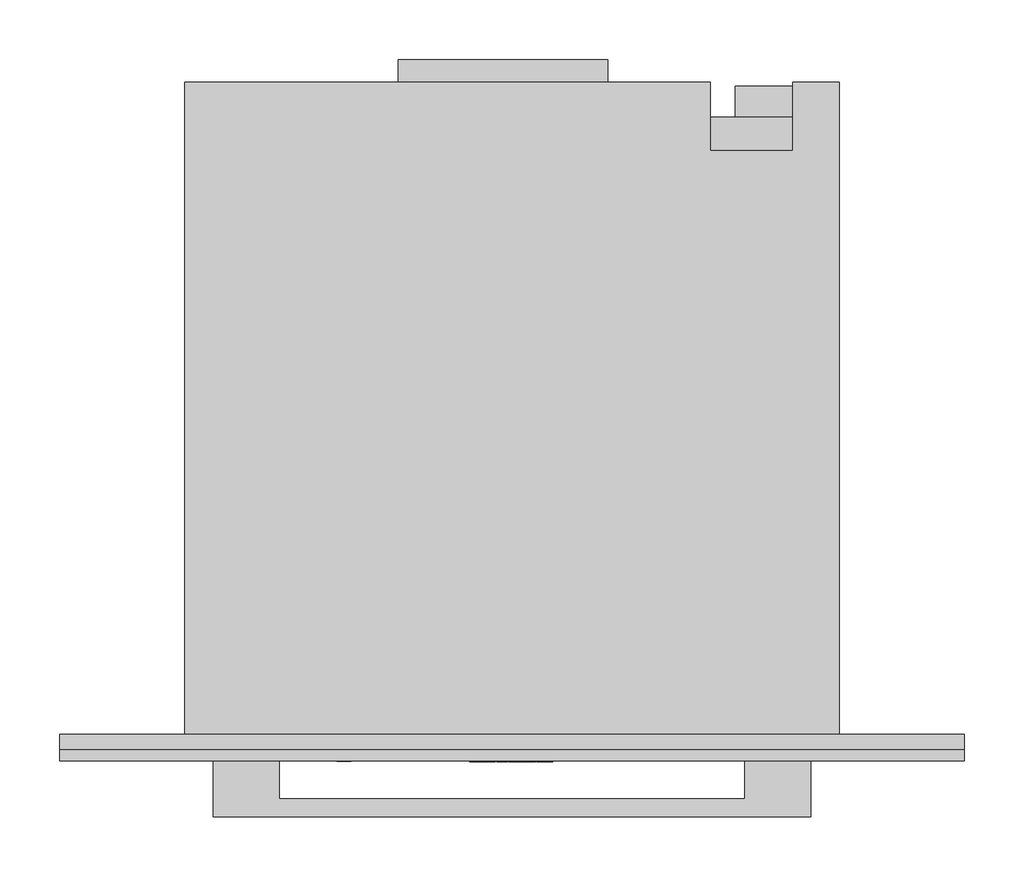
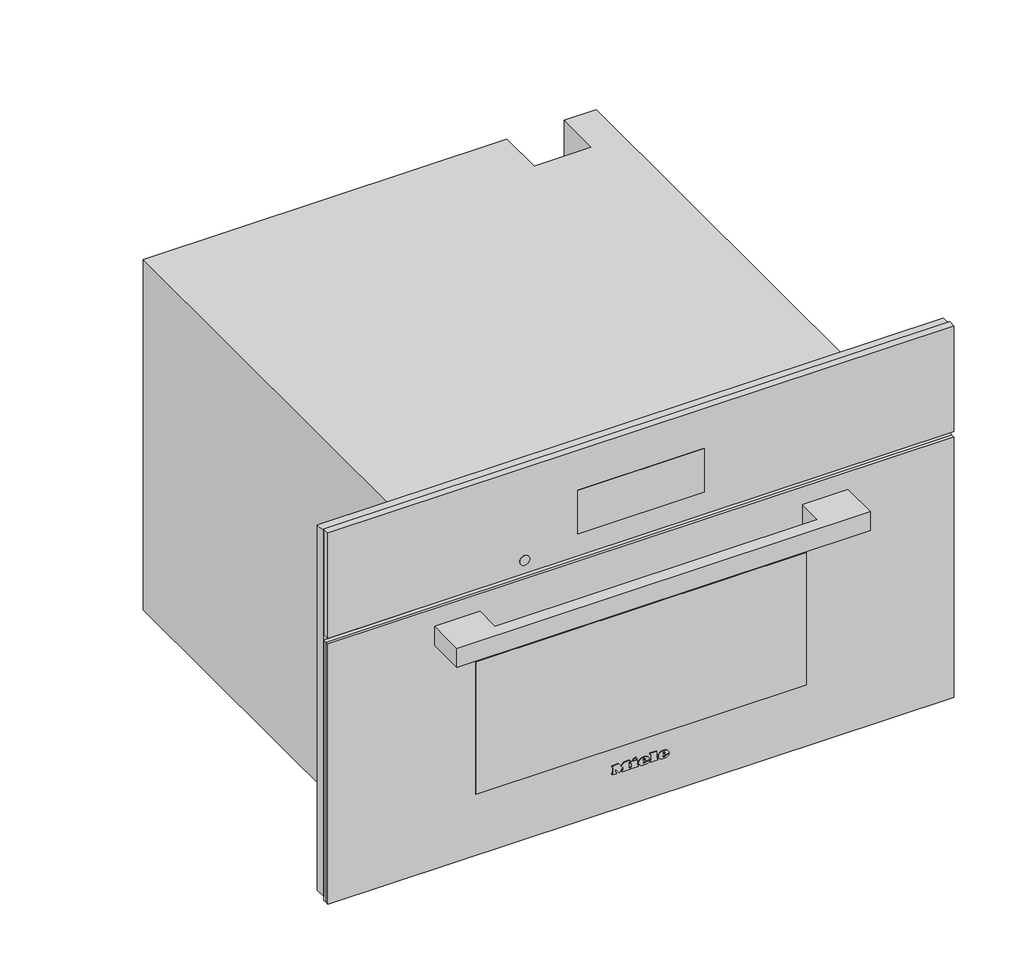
# Not in any storey: 1 proxy.
"""IFC4 building model written with IfcOpenShell, lengths in millimetres."""

from ifc_helpers import new_model, si_unit, origin, place, context, project, spatial, transform, mapped, element, save
from components import specialty_equipment_27de7004

model = new_model("IFC4")

# Units and contexts
model_context = context("Model", 3, world=origin())
ifc_project = project(units=[si_unit("LENGTHUNIT", "METRE", prefix="MILLI")], contexts=[model_context])

# Site, building
site = spatial("IfcSite", under=ifc_project)
building = spatial("IfcBuilding", under=site)

# Proxy
placement = place(None, origin())
specialty_equipment_shape = specialty_equipment_27de7004(model_context)
element("IfcBuildingElementProxy", 1, Name="11876180_USA_DGC7870_GRGR : 23787032_USA_11876180_DGC7870_GRGR", ObjectType="11876180_USA_DGC7870_GRGR : 23787032_USA_11876180_DGC7870_GRGR", at=placement, inside=building, context=model_context, shape_type="MappedRepresentation", body=[
    mapped(specialty_equipment_shape, transform((0.0, 0.0, 0.0), x_axis=(1.0, 0.0, 0.0), y_axis=(0.0, 1.0, 0.0), z_axis=(0.0, 0.0, 1.0))),
])

save(model, "model.ifc")
